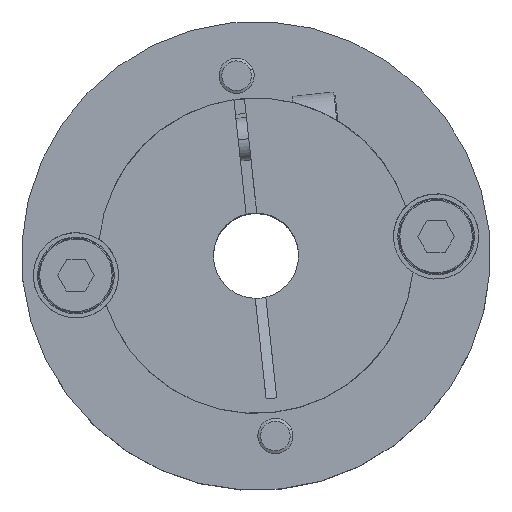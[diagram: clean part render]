
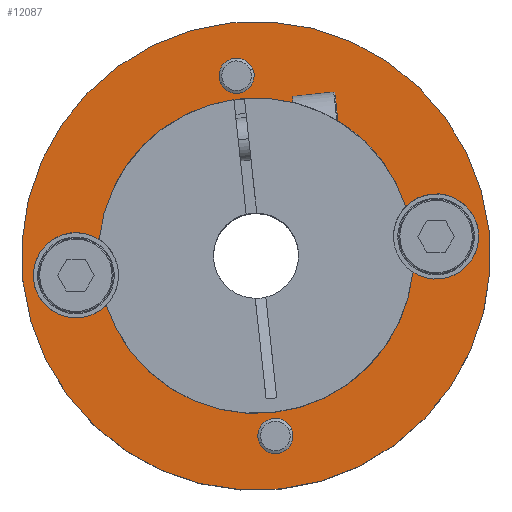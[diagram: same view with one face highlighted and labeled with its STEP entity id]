
A CAD part, top view. The second image highlights one B-rep face of the part: STEP entity #12087.
In plain terms, the highlighted planar face has unit normal (0, 0, 1).
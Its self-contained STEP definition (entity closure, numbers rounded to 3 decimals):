
#18 = CARTESIAN_POINT ( 'NONE',  ( 17.446, 50.638, 98.738 ) ) ;
#132 = AXIS2_PLACEMENT_3D ( 'NONE', #2417, #9333, #3416 ) ;
#213 = FACE_BOUND ( 'NONE', #11440, .T. ) ;
#343 = CARTESIAN_POINT ( 'NONE',  ( 0.543, 48.817, 98.738 ) ) ;
#715 = EDGE_CURVE ( 'NONE', #3608, #1614, #9978, .T. ) ;
#819 = EDGE_CURVE ( 'NONE', #5561, #5925, #2564, .T. ) ;
#887 = CIRCLE ( 'NONE', #3942, 1.65 ) ;
#984 = VERTEX_POINT ( 'NONE', #5356 ) ;
#1002 = DIRECTION ( 'NONE',  ( -0.994, -0.107, 0. ) ) ;
#1294 = EDGE_CURVE ( 'NONE', #5001, #5561, #10685, .T. ) ;
#1329 = DIRECTION ( 'NONE',  ( -0.994, -0.107, 0. ) ) ;
#1372 = AXIS2_PLACEMENT_3D ( 'NONE', #4548, #4421, #4262 ) ;
#1614 = VERTEX_POINT ( 'NONE', #8585 ) ;
#1970 = CARTESIAN_POINT ( 'NONE',  ( 32.166, 49.107, 98.738 ) ) ;
#2171 = ORIENTED_EDGE ( 'NONE', *, *, #4979, .F. ) ;
#2310 = CARTESIAN_POINT ( 'NONE',  ( 3.389, 46.006, 98.738 ) ) ;
#2417 = CARTESIAN_POINT ( 'NONE',  ( 15.624, 67.54, 98.738 ) ) ;
#2552 = CARTESIAN_POINT ( 'NONE',  ( 13.983, 67.364, 98.738 ) ) ;
#2564 = CIRCLE ( 'NONE', #8286, 4. ) ;
#2729 = CIRCLE ( 'NONE', #132, 1.65 ) ;
#2762 = ORIENTED_EDGE ( 'NONE', *, *, #10368, .F. ) ;
#2788 = FACE_BOUND ( 'NONE', #7214, .T. ) ;
#2812 = PLANE ( 'NONE',  #4762 ) ;
#2972 = ORIENTED_EDGE ( 'NONE', *, *, #10466, .F. ) ;
#3093 = ORIENTED_EDGE ( 'NONE', *, *, #12658, .F. ) ;
#3159 = CARTESIAN_POINT ( 'NONE',  ( 19.267, 33.736, 98.738 ) ) ;
#3169 = EDGE_CURVE ( 'NONE', #3784, #3941, #11711, .T. ) ;
#3224 = ORIENTED_EDGE ( 'NONE', *, *, #5383, .F. ) ;
#3371 = CIRCLE ( 'NONE', #8962, 4. ) ;
#3416 = DIRECTION ( 'NONE',  ( -0.994, -0.107, 0. ) ) ;
#3437 = ORIENTED_EDGE ( 'NONE', *, *, #819, .F. ) ;
#3569 = ORIENTED_EDGE ( 'NONE', *, *, #3169, .F. ) ;
#3608 = VERTEX_POINT ( 'NONE', #4260 ) ;
#3743 = ORIENTED_EDGE ( 'NONE', *, *, #715, .T. ) ;
#3784 = VERTEX_POINT ( 'NONE', #2310 ) ;
#3831 = ORIENTED_EDGE ( 'NONE', *, *, #1294, .F. ) ;
#3849 = CIRCLE ( 'NONE', #6950, 1.65 ) ;
#3894 = ORIENTED_EDGE ( 'NONE', *, *, #7207, .T. ) ;
#3941 = VERTEX_POINT ( 'NONE', #1970 ) ;
#3942 = AXIS2_PLACEMENT_3D ( 'NONE', #6361, #11008, #5777 ) ;
#4013 = ORIENTED_EDGE ( 'NONE', *, *, #6414, .F. ) ;
#4156 = DIRECTION ( 'NONE',  ( -0.994, -0.107, 0. ) ) ;
#4212 = ORIENTED_EDGE ( 'NONE', *, *, #4405, .F. ) ;
#4243 = CARTESIAN_POINT ( 'NONE',  ( 20.908, 33.913, 98.738 ) ) ;
#4260 = CARTESIAN_POINT ( 'NONE',  ( 39.319, 52.996, 98.738 ) ) ;
#4262 = DIRECTION ( 'NONE',  ( -0.994, -0.107, 0. ) ) ;
#4405 = EDGE_CURVE ( 'NONE', #984, #9741, #6940, .T. ) ;
#4421 = DIRECTION ( 'NONE',  ( 0., 0., 1. ) ) ;
#4548 = CARTESIAN_POINT ( 'NONE',  ( 17.446, 50.638, 98.738 ) ) ;
#4669 = CARTESIAN_POINT ( 'NONE',  ( 38.325, 52.888, 98.738 ) ) ;
#4762 = AXIS2_PLACEMENT_3D ( 'NONE', #18, #6913, #1002 ) ;
#4854 = EDGE_LOOP ( 'NONE', ( #3743, #3894 ) ) ;
#4979 = EDGE_CURVE ( 'NONE', #3941, #6482, #11324, .T. ) ;
#5001 = VERTEX_POINT ( 'NONE', #10478 ) ;
#5320 = DIRECTION ( 'NONE',  ( -0.994, -0.107, 0. ) ) ;
#5322 = DIRECTION ( 'NONE',  ( 0., 0., 1. ) ) ;
#5342 = CARTESIAN_POINT ( 'NONE',  ( 34.348, 52.46, 98.738 ) ) ;
#5356 = CARTESIAN_POINT ( 'NONE',  ( 17.627, 33.559, 98.738 ) ) ;
#5383 = EDGE_CURVE ( 'NONE', #11563, #11247, #887, .T. ) ;
#5561 = VERTEX_POINT ( 'NONE', #7816 ) ;
#5692 = AXIS2_PLACEMENT_3D ( 'NONE', #10404, #10305, #10258 ) ;
#5777 = DIRECTION ( 'NONE',  ( -0.994, -0.107, 0. ) ) ;
#5925 = VERTEX_POINT ( 'NONE', #9155 ) ;
#6048 = CARTESIAN_POINT ( 'NONE',  ( 17.446, 50.638, 98.738 ) ) ;
#6072 = DIRECTION ( 'NONE',  ( -0.994, -0.107, 0. ) ) ;
#6080 = DIRECTION ( 'NONE',  ( 0., 0., 1. ) ) ;
#6361 = CARTESIAN_POINT ( 'NONE',  ( 15.624, 67.54, 98.738 ) ) ;
#6370 = DIRECTION ( 'NONE',  ( -0.994, -0.107, 0. ) ) ;
#6397 = DIRECTION ( 'NONE',  ( 0., 0., 1. ) ) ;
#6414 = EDGE_CURVE ( 'NONE', #6482, #5001, #12315, .T. ) ;
#6433 = CARTESIAN_POINT ( 'NONE',  ( 19.267, 33.736, 98.738 ) ) ;
#6482 = VERTEX_POINT ( 'NONE', #4669 ) ;
#6913 = DIRECTION ( 'NONE',  ( 0., 0., 1. ) ) ;
#6940 = CIRCLE ( 'NONE', #7895, 1.65 ) ;
#6950 = AXIS2_PLACEMENT_3D ( 'NONE', #3159, #10064, #4156 ) ;
#6977 = AXIS2_PLACEMENT_3D ( 'NONE', #10801, #10785, #10769 ) ;
#7207 = EDGE_CURVE ( 'NONE', #1614, #3608, #10488, .T. ) ;
#7214 = EDGE_LOOP ( 'NONE', ( #3437, #3831, #4013, #2171, #3569, #2762 ) ) ;
#7232 = DIRECTION ( 'NONE',  ( 0., 0., 1. ) ) ;
#7401 = CARTESIAN_POINT ( 'NONE',  ( 17.446, 50.638, 98.738 ) ) ;
#7413 = DIRECTION ( 'NONE',  ( 0., 0., 1. ) ) ;
#7450 = DIRECTION ( 'NONE',  ( -0.994, -0.107, 0. ) ) ;
#7816 = CARTESIAN_POINT ( 'NONE',  ( 2.725, 52.17, 98.738 ) ) ;
#7895 = AXIS2_PLACEMENT_3D ( 'NONE', #6433, #6397, #6370 ) ;
#8286 = AXIS2_PLACEMENT_3D ( 'NONE', #8480, #8495, #8522 ) ;
#8480 = CARTESIAN_POINT ( 'NONE',  ( 0.543, 48.817, 98.738 ) ) ;
#8495 = DIRECTION ( 'NONE',  ( 0., 0., 1. ) ) ;
#8522 = DIRECTION ( 'NONE',  ( -0.994, -0.107, 0. ) ) ;
#8585 = CARTESIAN_POINT ( 'NONE',  ( -4.428, 48.281, 98.738 ) ) ;
#8734 = AXIS2_PLACEMENT_3D ( 'NONE', #7401, #7413, #7450 ) ;
#8962 = AXIS2_PLACEMENT_3D ( 'NONE', #343, #7232, #1329 ) ;
#9155 = CARTESIAN_POINT ( 'NONE',  ( -3.434, 48.388, 98.738 ) ) ;
#9333 = DIRECTION ( 'NONE',  ( 0., 0., 1. ) ) ;
#9741 = VERTEX_POINT ( 'NONE', #4243 ) ;
#9978 = CIRCLE ( 'NONE', #8734, 22. ) ;
#10064 = DIRECTION ( 'NONE',  ( 0., 0., 1. ) ) ;
#10258 = DIRECTION ( 'NONE',  ( -0.994, -0.107, 0. ) ) ;
#10305 = DIRECTION ( 'NONE',  ( 0., 0., 1. ) ) ;
#10364 = FACE_OUTER_BOUND ( 'NONE', #4854, .T. ) ;
#10368 = EDGE_CURVE ( 'NONE', #5925, #3784, #3371, .T. ) ;
#10404 = CARTESIAN_POINT ( 'NONE',  ( 34.348, 52.46, 98.738 ) ) ;
#10466 = EDGE_CURVE ( 'NONE', #11247, #11563, #2729, .T. ) ;
#10478 = CARTESIAN_POINT ( 'NONE',  ( 31.502, 55.271, 98.738 ) ) ;
#10488 = CIRCLE ( 'NONE', #1372, 22. ) ;
#10685 = CIRCLE ( 'NONE', #6977, 14.8 ) ;
#10769 = DIRECTION ( 'NONE',  ( -0.994, -0.107, 0. ) ) ;
#10785 = DIRECTION ( 'NONE',  ( 0., 0., 1. ) ) ;
#10801 = CARTESIAN_POINT ( 'NONE',  ( 17.446, 50.638, 98.738 ) ) ;
#11008 = DIRECTION ( 'NONE',  ( 0., 0., 1. ) ) ;
#11168 = CARTESIAN_POINT ( 'NONE',  ( 17.264, 67.717, 98.738 ) ) ;
#11240 = FACE_BOUND ( 'NONE', #12617, .T. ) ;
#11247 = VERTEX_POINT ( 'NONE', #2552 ) ;
#11324 = CIRCLE ( 'NONE', #5692, 4. ) ;
#11440 = EDGE_LOOP ( 'NONE', ( #2972, #3224 ) ) ;
#11563 = VERTEX_POINT ( 'NONE', #11168 ) ;
#11711 = CIRCLE ( 'NONE', #12370, 14.8 ) ;
#11821 = AXIS2_PLACEMENT_3D ( 'NONE', #5342, #5322, #5320 ) ;
#12087 = ADVANCED_FACE ( 'NONE', ( #11240, #2788, #213, #10364 ), #2812, .T. ) ;
#12315 = CIRCLE ( 'NONE', #11821, 4. ) ;
#12370 = AXIS2_PLACEMENT_3D ( 'NONE', #6048, #6080, #6072 ) ;
#12617 = EDGE_LOOP ( 'NONE', ( #4212, #3093 ) ) ;
#12658 = EDGE_CURVE ( 'NONE', #9741, #984, #3849, .T. ) ;
